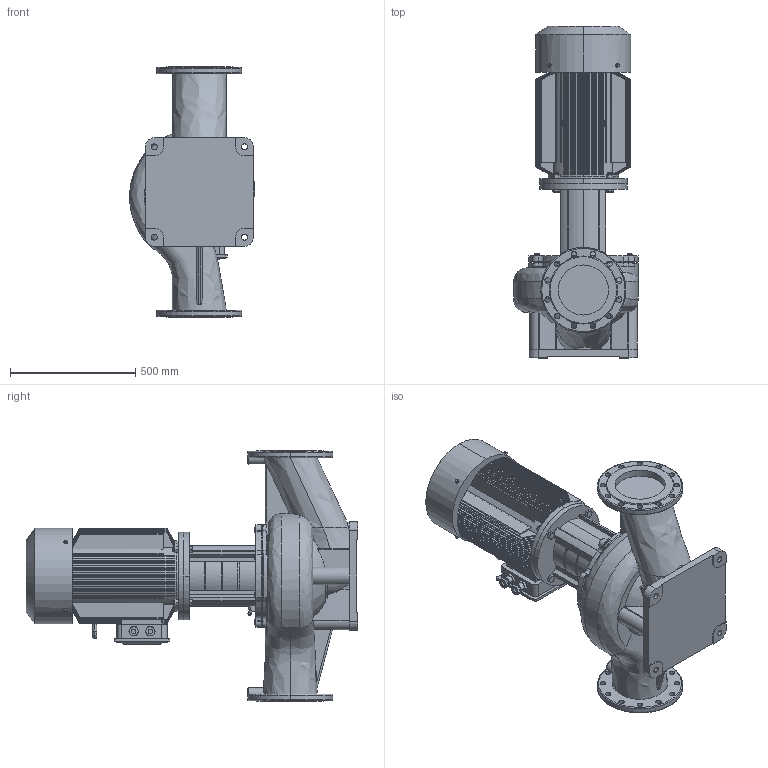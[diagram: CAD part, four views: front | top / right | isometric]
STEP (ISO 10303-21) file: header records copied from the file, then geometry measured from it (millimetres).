
FILE_DESCRIPTION(/* description */ (''),/* implementation_level */ '2;1');
FILE_NAME(/* name */ 'TD200-16-4安装尺寸图.stp',/* time_stamp */ '2026-09-07T16:49:18+08:00',/* author */ (''),/* organization */ (''),/* preprocessor_version */ 'ST-DEVELOPER v16.7',/* originating_system */ 'SIEMENS PLM Software NX 1847',/* authorisation */ '');
FILE_SCHEMA (('AP203_CONFIGURATION_CONTROLLED_3D_DESIGN_OF_MECHANICAL_PARTS_AND_ASSEMBLIES_MIM_LF { 1 0 10303 403 2 1 2}'));
Products named in the file (1): Admi55F8EAC4z537
Bounding box: 498.52 x 1324 x 1000 mm (x, y, z)
Volume: 148348257.1 mm3; surface area: 6343499.8 mm2
Topology: 1 solids, 8 shells, 1499 faces, 3816 edges, 2409 vertices
Faces by surface type: plane 591, cylinder 435, cone 384, torus 50, bspline 39
Full cylindrical faces by diameter (mm): 8 x1, 10 x2, 11.701 x8, 12.9 x1, 16.63 x8, 17.623 x8, 25.34 x4, 315 x1, 330 x1
Entity records: 53186 total; most frequent: CARTESIAN_POINT 18176, ORIENTED_EDGE 7434, DIRECTION 7050, EDGE_CURVE 3717, AXIS2_PLACEMENT_3D 2850, VERTEX_POINT 2368, EDGE_LOOP 1719, ADVANCED_FACE 1499
